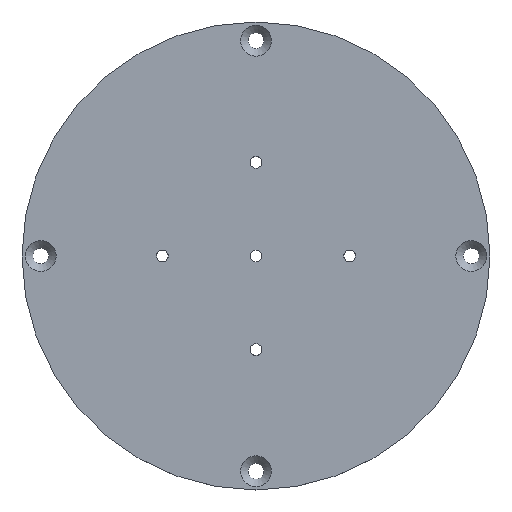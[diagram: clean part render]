
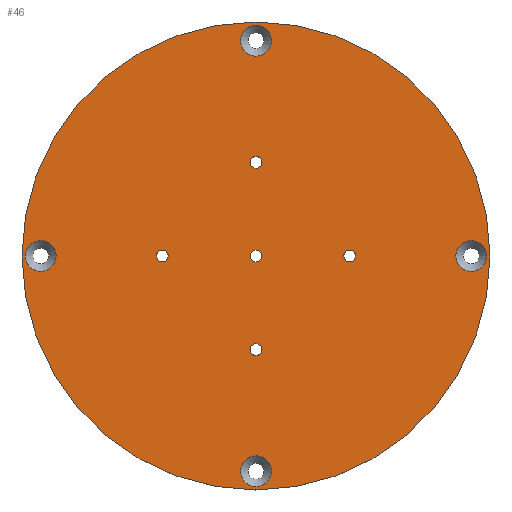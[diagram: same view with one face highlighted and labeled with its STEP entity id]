
A CAD part, top view. The second image highlights one B-rep face of the part: STEP entity #46.
In plain terms, the highlighted planar face has unit normal (0, 0, 1).
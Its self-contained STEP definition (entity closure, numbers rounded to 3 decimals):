
#4 = DIRECTION ( 'NONE',  ( 0., 0., 1. ) ) ;
#5 = FACE_BOUND ( 'NONE', #88, .T. ) ;
#12 = DIRECTION ( 'NONE',  ( 0., 0., 1. ) ) ;
#15 = FACE_BOUND ( 'NONE', #338, .T. ) ;
#19 = AXIS2_PLACEMENT_3D ( 'NONE', #152, #481, #360 ) ;
#24 = CARTESIAN_POINT ( 'NONE',  ( 0., 20., 2. ) ) ;
#26 = CARTESIAN_POINT ( 'NONE',  ( 3.3, 46., 2. ) ) ;
#41 = AXIS2_PLACEMENT_3D ( 'NONE', #187, #437, #404 ) ;
#42 = VERTEX_POINT ( 'NONE', #465 ) ;
#46 = ADVANCED_FACE ( 'NONE', ( #486, #438, #394, #104, #107, #5, #270, #15, #150, #56 ), #188, .T. ) ;
#56 = FACE_OUTER_BOUND ( 'NONE', #148, .T. ) ;
#69 = CIRCLE ( 'NONE', #87, 3.3 ) ;
#72 = CARTESIAN_POINT ( 'NONE',  ( -18.75, 0., 2. ) ) ;
#78 = AXIS2_PLACEMENT_3D ( 'NONE', #310, #95, #480 ) ;
#87 = AXIS2_PLACEMENT_3D ( 'NONE', #320, #454, #374 ) ;
#88 = EDGE_LOOP ( 'NONE', ( #239 ) ) ;
#89 = CIRCLE ( 'NONE', #156, 3.3 ) ;
#91 = ORIENTED_EDGE ( 'NONE', *, *, #322, .F. ) ;
#93 = DIRECTION ( 'NONE',  ( 0., 0., 1. ) ) ;
#95 = DIRECTION ( 'NONE',  ( 0., 0., 1. ) ) ;
#101 = EDGE_CURVE ( 'NONE', #533, #533, #69, .T. ) ;
#104 = FACE_BOUND ( 'NONE', #137, .T. ) ;
#105 = EDGE_LOOP ( 'NONE', ( #225 ) ) ;
#106 = DIRECTION ( 'NONE',  ( 1., 0., 0. ) ) ;
#107 = FACE_BOUND ( 'NONE', #170, .T. ) ;
#119 = VERTEX_POINT ( 'NONE', #540 ) ;
#123 = CARTESIAN_POINT ( 'NONE',  ( -46., 0., 2. ) ) ;
#137 = EDGE_LOOP ( 'NONE', ( #349 ) ) ;
#148 = EDGE_LOOP ( 'NONE', ( #253 ) ) ;
#150 = FACE_BOUND ( 'NONE', #445, .T. ) ;
#152 = CARTESIAN_POINT ( 'NONE',  ( 0., 0., 2. ) ) ;
#156 = AXIS2_PLACEMENT_3D ( 'NONE', #527, #12, #191 ) ;
#162 = EDGE_CURVE ( 'NONE', #449, #449, #227, .T. ) ;
#170 = EDGE_LOOP ( 'NONE', ( #517 ) ) ;
#187 = CARTESIAN_POINT ( 'NONE',  ( 0., 0., 2. ) ) ;
#188 = PLANE ( 'NONE',  #19 ) ;
#191 = DIRECTION ( 'NONE',  ( 1., 0., 0. ) ) ;
#194 = CARTESIAN_POINT ( 'NONE',  ( -20., 0., 2. ) ) ;
#206 = DIRECTION ( 'NONE',  ( 0., 0., 1. ) ) ;
#214 = CARTESIAN_POINT ( 'NONE',  ( 21.25, 0., 2. ) ) ;
#221 = AXIS2_PLACEMENT_3D ( 'NONE', #352, #93, #106 ) ;
#222 = ORIENTED_EDGE ( 'NONE', *, *, #290, .F. ) ;
#225 = ORIENTED_EDGE ( 'NONE', *, *, #422, .F. ) ;
#227 = CIRCLE ( 'NONE', #376, 3.3 ) ;
#239 = ORIENTED_EDGE ( 'NONE', *, *, #162, .F. ) ;
#245 = AXIS2_PLACEMENT_3D ( 'NONE', #24, #542, #498 ) ;
#246 = CARTESIAN_POINT ( 'NONE',  ( -42.7, 0., 2. ) ) ;
#247 = CARTESIAN_POINT ( 'NONE',  ( 1.25, -20., 2. ) ) ;
#248 = DIRECTION ( 'NONE',  ( 0., 0., 1. ) ) ;
#253 = ORIENTED_EDGE ( 'NONE', *, *, #354, .T. ) ;
#256 = EDGE_LOOP ( 'NONE', ( #91 ) ) ;
#265 = EDGE_LOOP ( 'NONE', ( #291 ) ) ;
#270 = FACE_BOUND ( 'NONE', #256, .T. ) ;
#271 = DIRECTION ( 'NONE',  ( 1., 0., 0. ) ) ;
#283 = VERTEX_POINT ( 'NONE', #247 ) ;
#285 = VERTEX_POINT ( 'NONE', #413 ) ;
#290 = EDGE_CURVE ( 'NONE', #315, #315, #89, .T. ) ;
#291 = ORIENTED_EDGE ( 'NONE', *, *, #548, .F. ) ;
#297 = EDGE_CURVE ( 'NONE', #119, #119, #401, .T. ) ;
#310 = CARTESIAN_POINT ( 'NONE',  ( 0., 0., 2. ) ) ;
#315 = VERTEX_POINT ( 'NONE', #26 ) ;
#320 = CARTESIAN_POINT ( 'NONE',  ( 46., 0., 2. ) ) ;
#322 = EDGE_CURVE ( 'NONE', #490, #490, #547, .T. ) ;
#323 = DIRECTION ( 'NONE',  ( 1., 0., 0. ) ) ;
#325 = CARTESIAN_POINT ( 'NONE',  ( 3.3, -46., 2. ) ) ;
#329 = CARTESIAN_POINT ( 'NONE',  ( 20., 0., 2. ) ) ;
#338 = EDGE_LOOP ( 'NONE', ( #491 ) ) ;
#341 = AXIS2_PLACEMENT_3D ( 'NONE', #194, #359, #530 ) ;
#349 = ORIENTED_EDGE ( 'NONE', *, *, #408, .F. ) ;
#352 = CARTESIAN_POINT ( 'NONE',  ( 0., -20., 2. ) ) ;
#354 = EDGE_CURVE ( 'NONE', #285, #285, #464, .T. ) ;
#359 = DIRECTION ( 'NONE',  ( 0., 0., 1. ) ) ;
#360 = DIRECTION ( 'NONE',  ( 1., 0., 0. ) ) ;
#366 = CIRCLE ( 'NONE', #221, 1.25 ) ;
#373 = CARTESIAN_POINT ( 'NONE',  ( 49.3, 0., 2. ) ) ;
#374 = DIRECTION ( 'NONE',  ( 1., 0., 0. ) ) ;
#376 = AXIS2_PLACEMENT_3D ( 'NONE', #123, #248, #497 ) ;
#392 = AXIS2_PLACEMENT_3D ( 'NONE', #482, #4, #271 ) ;
#394 = FACE_BOUND ( 'NONE', #105, .T. ) ;
#401 = CIRCLE ( 'NONE', #78, 1.25 ) ;
#404 = DIRECTION ( 'NONE',  ( 1., 0., 0. ) ) ;
#408 = EDGE_CURVE ( 'NONE', #283, #283, #366, .T. ) ;
#413 = CARTESIAN_POINT ( 'NONE',  ( 50., 0., 2. ) ) ;
#422 = EDGE_CURVE ( 'NONE', #451, #451, #518, .T. ) ;
#428 = EDGE_LOOP ( 'NONE', ( #536 ) ) ;
#436 = CIRCLE ( 'NONE', #455, 1.25 ) ;
#437 = DIRECTION ( 'NONE',  ( 0., 0., 1. ) ) ;
#438 = FACE_BOUND ( 'NONE', #265, .T. ) ;
#445 = EDGE_LOOP ( 'NONE', ( #222 ) ) ;
#449 = VERTEX_POINT ( 'NONE', #246 ) ;
#451 = VERTEX_POINT ( 'NONE', #72 ) ;
#454 = DIRECTION ( 'NONE',  ( 0., 0., 1. ) ) ;
#455 = AXIS2_PLACEMENT_3D ( 'NONE', #329, #206, #323 ) ;
#458 = VERTEX_POINT ( 'NONE', #214 ) ;
#464 = CIRCLE ( 'NONE', #41, 50. ) ;
#465 = CARTESIAN_POINT ( 'NONE',  ( 1.25, 20., 2. ) ) ;
#472 = CIRCLE ( 'NONE', #245, 1.25 ) ;
#480 = DIRECTION ( 'NONE',  ( 1., 0., 0. ) ) ;
#481 = DIRECTION ( 'NONE',  ( 0., 0., 1. ) ) ;
#482 = CARTESIAN_POINT ( 'NONE',  ( 0., -46., 2. ) ) ;
#486 = FACE_BOUND ( 'NONE', #428, .T. ) ;
#490 = VERTEX_POINT ( 'NONE', #325 ) ;
#491 = ORIENTED_EDGE ( 'NONE', *, *, #101, .F. ) ;
#497 = DIRECTION ( 'NONE',  ( 1., 0., 0. ) ) ;
#498 = DIRECTION ( 'NONE',  ( 1., 0., 0. ) ) ;
#506 = EDGE_CURVE ( 'NONE', #458, #458, #436, .T. ) ;
#517 = ORIENTED_EDGE ( 'NONE', *, *, #506, .F. ) ;
#518 = CIRCLE ( 'NONE', #341, 1.25 ) ;
#527 = CARTESIAN_POINT ( 'NONE',  ( 0., 46., 2. ) ) ;
#530 = DIRECTION ( 'NONE',  ( 1., 0., 0. ) ) ;
#533 = VERTEX_POINT ( 'NONE', #373 ) ;
#536 = ORIENTED_EDGE ( 'NONE', *, *, #297, .F. ) ;
#540 = CARTESIAN_POINT ( 'NONE',  ( 1.25, 0., 2. ) ) ;
#542 = DIRECTION ( 'NONE',  ( 0., 0., 1. ) ) ;
#547 = CIRCLE ( 'NONE', #392, 3.3 ) ;
#548 = EDGE_CURVE ( 'NONE', #42, #42, #472, .T. ) ;
